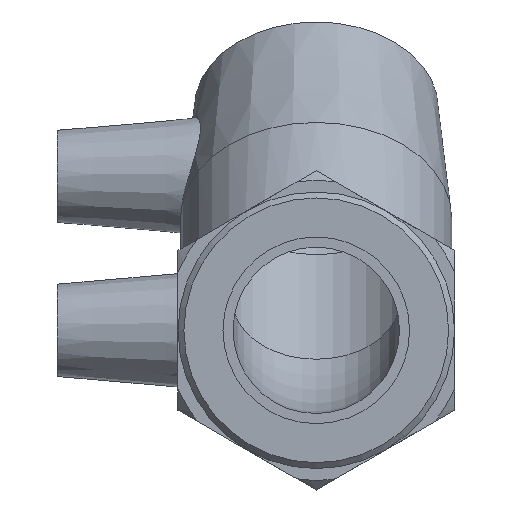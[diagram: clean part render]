
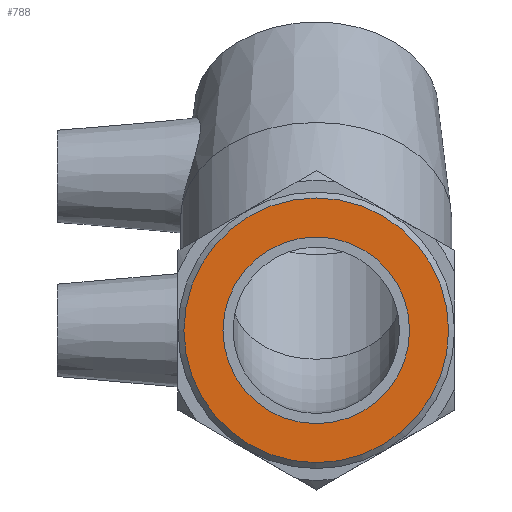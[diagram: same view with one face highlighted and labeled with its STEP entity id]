
A CAD part, left-side view. The second image highlights one B-rep face of the part: STEP entity #788.
In plain terms, the highlighted planar face has unit normal (-1, 0, 0).
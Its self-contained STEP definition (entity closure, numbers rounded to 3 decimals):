
#106=PLANE('',#858);
#136=FACE_BOUND('',#238,.T.);
#172=FACE_OUTER_BOUND('',#237,.T.);
#237=EDGE_LOOP('',(#567));
#238=EDGE_LOOP('',(#568));
#329=CIRCLE('',#856,21.48);
#331=CIRCLE('',#859,15.146);
#381=VERTEX_POINT('',#1225);
#383=VERTEX_POINT('',#1230);
#459=EDGE_CURVE('',#381,#381,#329,.T.);
#461=EDGE_CURVE('',#383,#383,#331,.T.);
#567=ORIENTED_EDGE('',*,*,#459,.F.);
#568=ORIENTED_EDGE('',*,*,#461,.T.);
#788=ADVANCED_FACE('',(#172,#136),#106,.T.);
#856=AXIS2_PLACEMENT_3D('',#1226,#978,#979);
#858=AXIS2_PLACEMENT_3D('',#1229,#982,#983);
#859=AXIS2_PLACEMENT_3D('',#1231,#984,#985);
#978=DIRECTION('center_axis',(1.,0.,0.));
#979=DIRECTION('ref_axis',(0.,0.,1.));
#982=DIRECTION('center_axis',(-1.,0.,0.));
#983=DIRECTION('ref_axis',(0.,0.,1.));
#984=DIRECTION('center_axis',(1.,0.,0.));
#985=DIRECTION('ref_axis',(0.,0.,-1.));
#1225=CARTESIAN_POINT('',(-90.963,0.,-21.48));
#1226=CARTESIAN_POINT('Origin',(-90.963,0.,0.));
#1229=CARTESIAN_POINT('Origin',(-90.963,0.,-22.44));
#1230=CARTESIAN_POINT('',(-90.963,0.,-15.146));
#1231=CARTESIAN_POINT('Origin',(-90.963,0.,0.));
